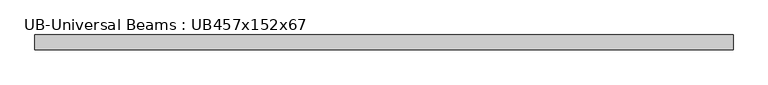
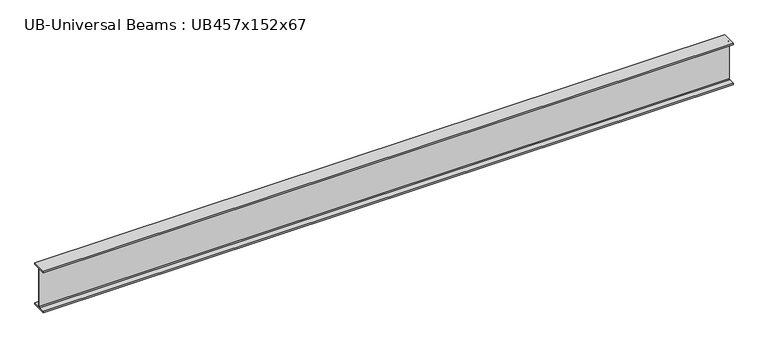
"""IFC4 building model written with IfcOpenShell, lengths in millimetres: beam geometry, UB-Universal Beams : UB457x152x67."""

from ifc_helpers import new_model, si_unit, point, frame, frame_2d, origin, place, context, project, spatial, polyline, circle_curve, trimmed, segment, composite_curve, outline, extrude, source, transform, mapped, element, save


def ub_universal_beams_ub457x152x67_9db4b58f(model_context):
    return source(origin(), model_context, "Body", "SweptSolid", [
        extrude(outline(composite_curve([segment(polyline([(76.9, -214.0), (76.9, -229.0), (-76.9, -229.0), (-76.9, -214.0), (-14.7, -214.0)]), True, "CONTINUOUS"), segment(trimmed(circle_curve(frame_2d((-14.7, -203.8)), 10.2), [point((-14.7, -214.0))], [point((-4.5, -203.8))], True, "CARTESIAN"), True, "CONTINUOUS"), segment(polyline([(-4.5, -203.8), (-4.5, 203.8)]), True, "CONTINUOUS"), segment(trimmed(circle_curve(frame_2d((-14.7, 203.8)), 10.2), [point((-4.5, 203.8))], [point((-14.7, 214.0))], True, "CARTESIAN"), True, "CONTINUOUS"), segment(polyline([(-14.7, 214.0), (-76.9, 214.0), (-76.9, 229.0), (76.9, 229.0), (76.9, 214.0), (14.7, 214.0)]), True, "CONTINUOUS"), segment(trimmed(circle_curve(frame_2d((14.7, 203.8)), 10.2), [point((14.7, 214.0))], [point((4.5, 203.8))], True, "CARTESIAN"), True, "CONTINUOUS"), segment(polyline([(4.5, 203.8), (4.5, -203.8)]), True, "CONTINUOUS"), segment(trimmed(circle_curve(frame_2d((14.7, -203.8)), 10.2), [point((4.5, -203.8))], [point((14.7, -214.0))], True, "CARTESIAN"), True, "CONTINUOUS"), segment(polyline([(14.7, -214.0), (76.9, -214.0)]), True, "CONTINUOUS")], self_intersect=False)), frame((-3630.3, 0.0, 0.0), z_axis=(1.0, 0.0, 0.0), x_axis=(0.0, 1.0, 0.0)), (0.0, 0.0, 1.0), 7213.9),
    ])


if __name__ == "__main__":
    model = new_model("IFC4")
    model_context = context("Model", 3, world=origin())
    ifc_project = project(units=[si_unit("LENGTHUNIT", "METRE", prefix="MILLI")], contexts=[model_context])
    site = spatial("IfcSite", under=ifc_project)
    building = spatial("IfcBuilding", under=site)
    placement = place(None, origin())
    ub_universal_beams_ub457x152x67_shape = ub_universal_beams_ub457x152x67_9db4b58f(model_context)
    element("IfcBeam", 1, ObjectType="UB-Universal Beams : UB457x152x67", at=placement, inside=building, context=model_context, shape_type="MappedRepresentation", body=[
        mapped(ub_universal_beams_ub457x152x67_shape, transform((0.0, 0.0, 0.0), x_axis=(1.0, 0.0, 0.0), y_axis=(0.0, 1.0, 0.0), z_axis=(0.0, 0.0, 1.0))),
    ])
    save(model, "model.ifc")
